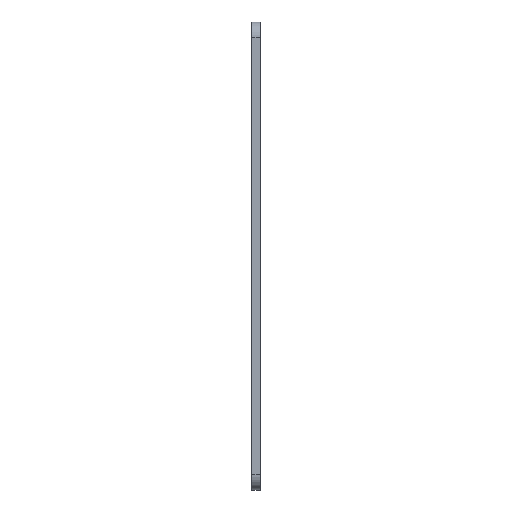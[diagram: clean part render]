
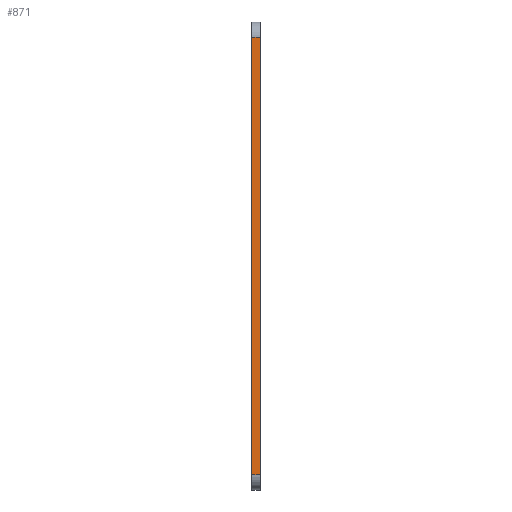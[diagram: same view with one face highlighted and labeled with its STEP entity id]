
A CAD part, left-side view. The second image highlights one B-rep face of the part: STEP entity #871.
In plain terms, the highlighted planar face has unit normal (-1, 0, 0).
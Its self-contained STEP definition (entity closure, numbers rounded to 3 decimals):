
#9 = PLANE ( 'NONE',  #691 ) ;
#18 = CARTESIAN_POINT ( 'NONE',  ( -12.825, 0., -9.053 ) ) ;
#34 = DIRECTION ( 'NONE',  ( 0., 0., -1. ) ) ;
#43 = LINE ( 'NONE', #542, #561 ) ;
#57 = EDGE_CURVE ( 'NONE', #480, #644, #246, .T. ) ;
#75 = LINE ( 'NONE', #853, #139 ) ;
#78 = DIRECTION ( 'NONE',  ( 0., 0., 1. ) ) ;
#139 = VECTOR ( 'NONE', #34, 1000. ) ;
#170 = DIRECTION ( 'NONE',  ( 0., -1., 0. ) ) ;
#182 = ORIENTED_EDGE ( 'NONE', *, *, #57, .F. ) ;
#224 = ORIENTED_EDGE ( 'NONE', *, *, #723, .T. ) ;
#231 = VECTOR ( 'NONE', #170, 1000. ) ;
#246 = LINE ( 'NONE', #441, #231 ) ;
#270 = CARTESIAN_POINT ( 'NONE',  ( -12.825, 2., 99.404 ) ) ;
#321 = VECTOR ( 'NONE', #517, 1000. ) ;
#332 = DIRECTION ( 'NONE',  ( 0., -1., 0. ) ) ;
#342 = VERTEX_POINT ( 'NONE', #705 ) ;
#354 = LINE ( 'NONE', #658, #321 ) ;
#418 = CARTESIAN_POINT ( 'NONE',  ( -12.825, 0., 99.404 ) ) ;
#438 = CARTESIAN_POINT ( 'NONE',  ( -12.825, 2., 99.404 ) ) ;
#441 = CARTESIAN_POINT ( 'NONE',  ( -12.825, 2., 99.404 ) ) ;
#480 = VERTEX_POINT ( 'NONE', #438 ) ;
#482 = DIRECTION ( 'NONE',  ( -1., 0., 0. ) ) ;
#517 = DIRECTION ( 'NONE',  ( 0., 0., -1. ) ) ;
#542 = CARTESIAN_POINT ( 'NONE',  ( -12.825, 2., -9.053 ) ) ;
#548 = EDGE_CURVE ( 'NONE', #644, #665, #354, .T. ) ;
#561 = VECTOR ( 'NONE', #332, 1000. ) ;
#644 = VERTEX_POINT ( 'NONE', #418 ) ;
#658 = CARTESIAN_POINT ( 'NONE',  ( -12.825, 0., 99.404 ) ) ;
#665 = VERTEX_POINT ( 'NONE', #18 ) ;
#691 = AXIS2_PLACEMENT_3D ( 'NONE', #270, #482, #78 ) ;
#705 = CARTESIAN_POINT ( 'NONE',  ( -12.825, 2., -9.053 ) ) ;
#713 = EDGE_LOOP ( 'NONE', ( #799, #182, #224, #820 ) ) ;
#723 = EDGE_CURVE ( 'NONE', #480, #342, #75, .T. ) ;
#799 = ORIENTED_EDGE ( 'NONE', *, *, #548, .F. ) ;
#801 = EDGE_CURVE ( 'NONE', #342, #665, #43, .T. ) ;
#820 = ORIENTED_EDGE ( 'NONE', *, *, #801, .T. ) ;
#853 = CARTESIAN_POINT ( 'NONE',  ( -12.825, 2., 99.404 ) ) ;
#857 = FACE_OUTER_BOUND ( 'NONE', #713, .T. ) ;
#871 = ADVANCED_FACE ( 'NONE', ( #857 ), #9, .T. ) ;
